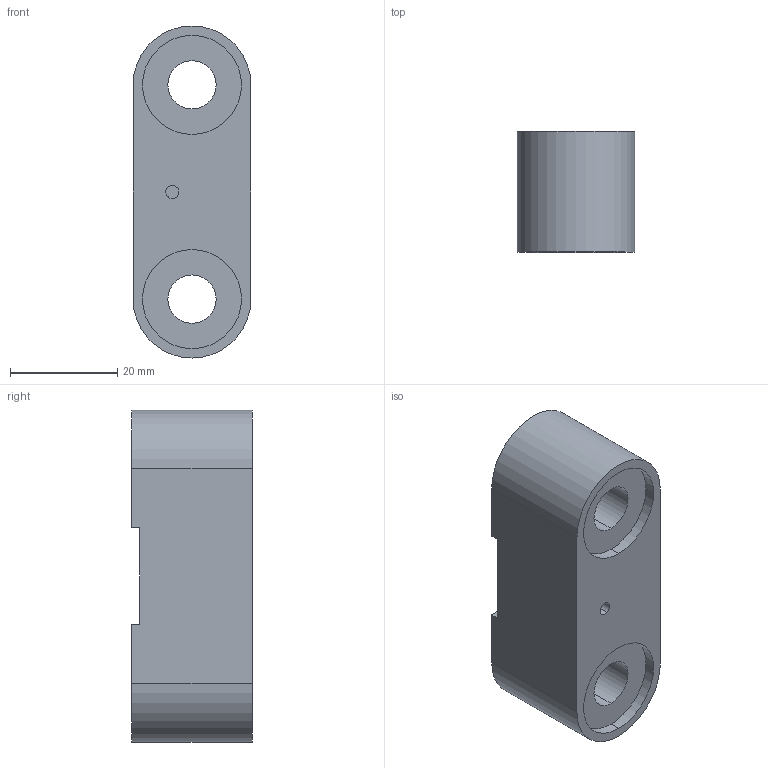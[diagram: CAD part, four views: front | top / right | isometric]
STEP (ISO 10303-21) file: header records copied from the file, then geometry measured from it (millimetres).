
FILE_DESCRIPTION(('CATIA V5 STEP Exchange'),'2;1');
FILE_NAME('C:\Users\hh\Desktop\TY62.18_V1.stp','2024-10-14T10:21:36+00:00',('none'),('none'),'CATIA Version 5 Release 21 GA (IN-10)','CATIA V5 STEP AP203','none');
FILE_SCHEMA(('CONFIG_CONTROL_DESIGN'));
Length unit declared in the file: millimetre
Products named in the file (1): TY62.18_V1
Bounding box: 22 x 22.5 x 62 mm (x, y, z)
Volume: 24028 mm3; surface area: 7101.9 mm2
Topology: 1 solids, 1 shells, 23 faces, 54 edges, 36 vertices
Faces by surface type: cylinder 12, plane 11
Entity records: 688 total; most frequent: CARTESIAN_POINT 112, ORIENTED_EDGE 108, DIRECTION 96, EDGE_CURVE 54, AXIS2_PLACEMENT_3D 46, VERTEX_POINT 36, VECTOR 30, EDGE_LOOP 30
